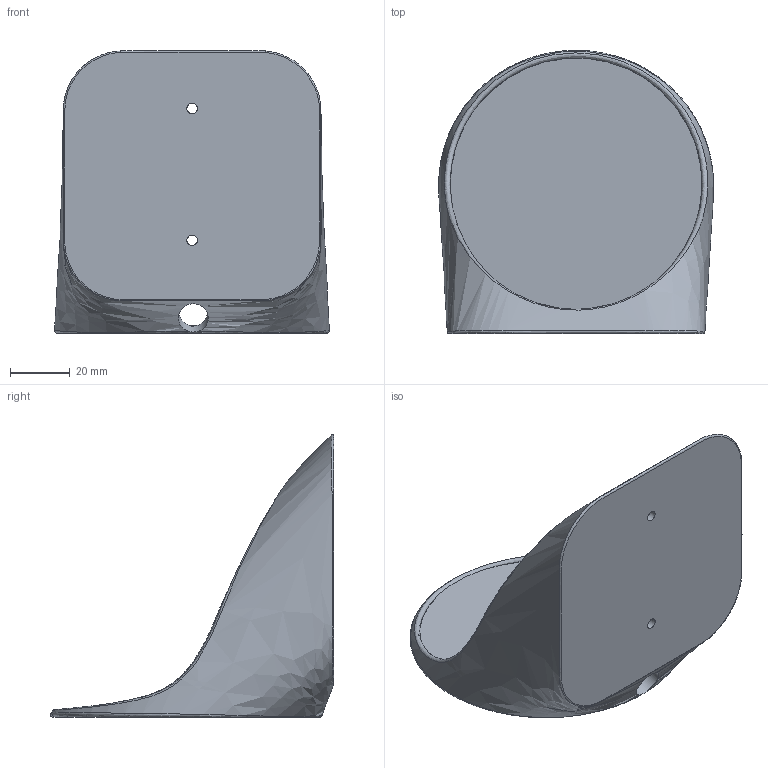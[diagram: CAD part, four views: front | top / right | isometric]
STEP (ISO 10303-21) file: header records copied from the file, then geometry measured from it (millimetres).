
FILE_DESCRIPTION(/* description */ (''),/* implementation_level */ '2;1');
FILE_NAME(/* name */ '/var/folders/zr/q7qmq9h575d8fb11zs4zv4yr0000gn/T/com.autodesk.mas.fusion360/Neutron/335a9978-e9c2-4fde-bf67-746e8697369c.stp',/* time_stamp */ '2016-12-26T15:29:45-08:00',/* author */ (''),/* organization */ (''),/* preprocessor_version */ 'ST-DEVELOPER v16.5',/* originating_system */ 'Autodesk Translation Framework v5.2.0.2920',/* authorisation */ '');
FILE_SCHEMA (('AUTOMOTIVE_DESIGN { 1 0 10303 214 3 1 1 }'));
Length unit declared in the file: millimetre
Products named in the file (1): Echo Shelf v3
Bounding box: 91.75 x 94.52 x 94.29 mm (x, y, z)
Volume: 67080.5 mm3; surface area: 36783.7 mm2
Topology: 1 solids, 1 shells, 14 faces, 56 edges, 43 vertices
Faces by surface type: bspline 6, cylinder 5, plane 3
Full cylindrical faces by diameter (mm): 3.5 x2, 10 x1
Entity records: 2852 total; most frequent: CARTESIAN_POINT 2448, ORIENTED_EDGE 102, EDGE_CURVE 51, VERTEX_POINT 41, DIRECTION 39, B_SPLINE_CURVE_WITH_KNOTS 38, EDGE_LOOP 22, AXIS2_PLACEMENT_3D 17
